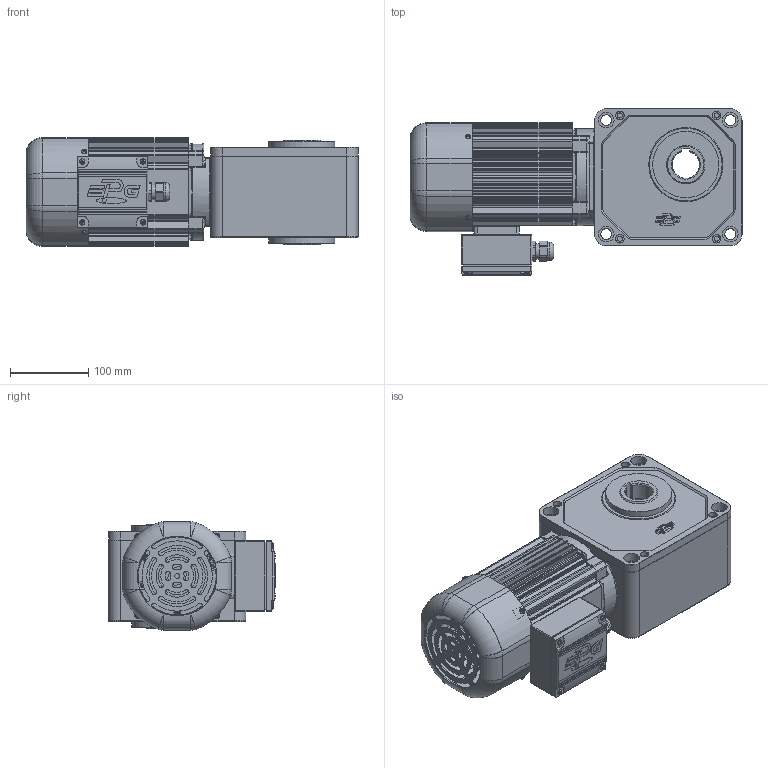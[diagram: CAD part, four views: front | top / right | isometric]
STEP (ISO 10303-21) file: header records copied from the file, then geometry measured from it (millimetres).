
FILE_DESCRIPTION(/* description */ (''),/* implementation_level */ '2;1');
FILE_NAME(/* name */ 'Z:\동력 3D 파일\PCH35_0.4kW_Brake_3D.stp',/* time_stamp */ '2021-11-09T09:50:31+09:00',/* author */ ('jaebok'),/* organization */ (''),/* preprocessor_version */ 'ST-DEVELOPER v18.1',/* originating_system */ 'Autodesk Inventor 2022',/* authorisation */ '');
FILE_SCHEMA (('AUTOMOTIVE_DESIGN { 1 0 10303 214 3 1 1 }'));
Products named in the file (1): 부품26
Bounding box: 425.5 x 214 x 139.4 mm (x, y, z)
Volume: 2939265.6 mm3; surface area: 735646.5 mm2
Topology: 2 solids, 18 shells, 2034 faces, 5183 edges, 3244 vertices
Faces by surface type: plane 905, cylinder 792, torus 118, cone 101, bspline 90, sphere 28
Full cylindrical faces by diameter (mm): 1.5 x2, 2 x4, 3 x8, 3.242 x5, 3.25 x1, 3.3 x4, 3.6 x4, 3.8 x3, 4 x25, 4.2 x8, 5 x19, 5.8 x2, 5.9 x3, 6 x14, 6.4 x1, 6.5 x10, 7 x12, 7.9 x6, 8 x3, 8.5 x1, 8.7 x1, 10 x1, 11 x4, 12.5 x1, 14 x4, 15 x1, 18 x1, 20 x14, 21 x1, 23.6 x1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
Entity records: 68546 total; most frequent: CARTESIAN_POINT 16972, DIRECTION 10855, ORIENTED_EDGE 10246, EDGE_CURVE 5123, AXIS2_PLACEMENT_3D 4167, VERTEX_POINT 3240, LINE 2521, VECTOR 2521
